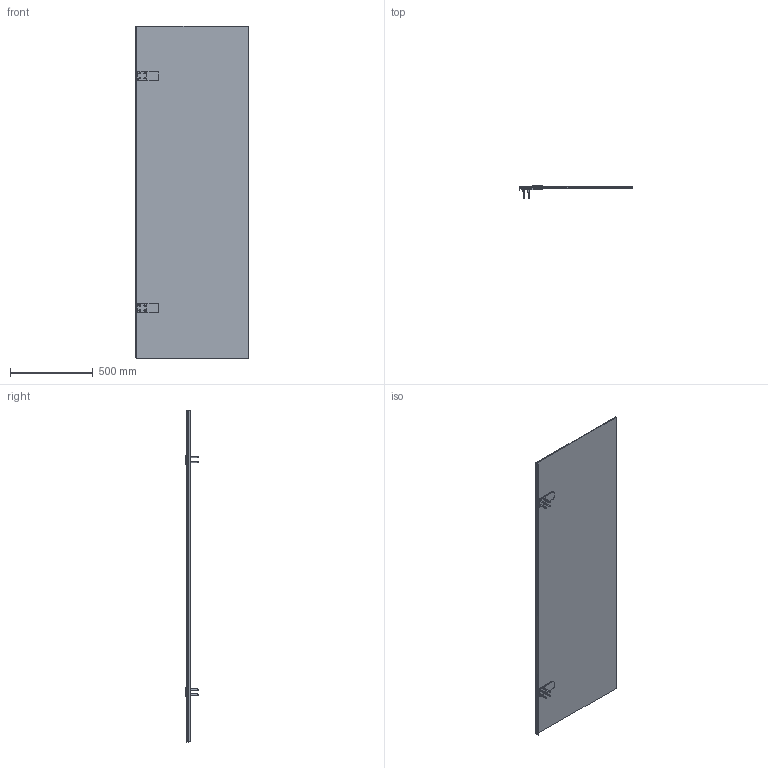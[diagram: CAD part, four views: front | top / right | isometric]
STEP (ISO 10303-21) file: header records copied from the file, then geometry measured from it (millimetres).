
FILE_DESCRIPTION(/* description */ (''),/* implementation_level */ '2;1');
FILE_NAME(/* name */ 'E:\Работа\Сергей\Душевые кабинки\! Работа\!! 33\TREND DOOR GK-861NA-2722\TREND DOOR GK-861NA-2722 левая модель\TREND DOOR GK-861NA-2722 ЛЕВАЯ-3D.stp',/* time_stamp */ '2017-10-11T20:05:55+03:00',/* author */ ('PC'),/* organization */ (''),/* preprocessor_version */ 'ST-DEVELOPER v15.2',/* originating_system */ 'Autodesk Inventor 2014',/* authorisation */ '');
FILE_SCHEMA (('AUTOMOTIVE_DESIGN { 1 0 10303 214 3 1 1 }'));
Length unit declared in the file: millimetre
Products named in the file (1): TREND DOOR GK-861NA-2722 ЛЕВАЯ-3
D
Bounding box: 677.36 x 76.09 x 2001 mm (x, y, z)
Volume: 8356784.9 mm3; surface area: 2864698.3 mm2
Topology: 1 solids, 1 shells, 134 faces, 321 edges, 210 vertices
Faces by surface type: plane 79, cylinder 31, cone 16, sphere 4, torus 4
Entity records: 3949 total; most frequent: DIRECTION 666, CARTESIAN_POINT 646, ORIENTED_EDGE 602, EDGE_CURVE 301, AXIS2_PLACEMENT_3D 230, VERTEX_POINT 210, LINE 206, VECTOR 206
